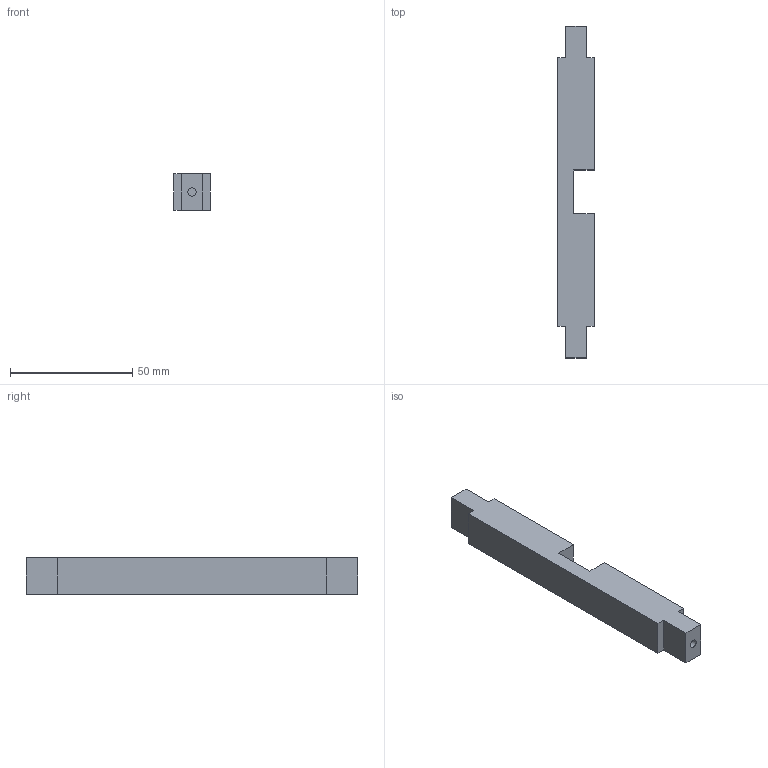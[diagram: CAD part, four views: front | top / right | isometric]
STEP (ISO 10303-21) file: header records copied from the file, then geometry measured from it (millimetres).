
FILE_DESCRIPTION(('Open CASCADE Model'),'2;1');
FILE_NAME('F09-BRG','2026-11-15T22:32:12',('Author'),('Open CASCADE'), 'Open CASCADE STEP processor 8.0','build123d','Unknown');
FILE_SCHEMA(('AUTOMOTIVE_DESIGN { 1 0 10303 214 1 1 1 1 }'));
Length unit declared in the file: millimetre
Products named in the file (1): F09-BRG
Bounding box: 15 x 136 x 15 mm (x, y, z)
Volume: 25540.5 mm3; surface area: 8535.6 mm2
Topology: 1 solids, 1 shells, 22 faces, 54 edges, 36 vertices
Faces by surface type: plane 20, cylinder 2
Full cylindrical faces by diameter (mm): 3.4 x2
Entity records: 1344 total; most frequent: CARTESIAN_POINT 249, DIRECTION 194, LINE 138, VECTOR 138, ORIENTED_EDGE 108, PCURVE 108, DEFINITIONAL_REPRESENTATION 108, EDGE_CURVE 54
